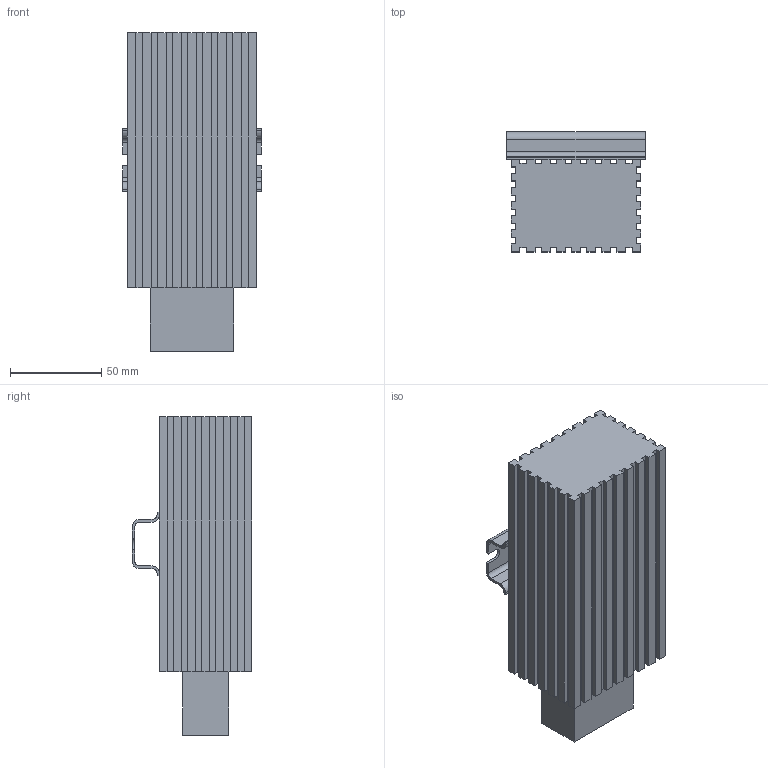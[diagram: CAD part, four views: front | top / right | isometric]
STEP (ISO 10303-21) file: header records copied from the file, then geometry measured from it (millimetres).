
FILE_DESCRIPTION(/* description */ ('Unknown'),/* implementation_level */ '2;1');
FILE_NAME(/* name */ 'SHG14005',/* time_stamp */ '2018-01-16T16:07:45-05:00',/* author */ ('Unknown'),/* organization */ ('Unknown'),/* preprocessor_version */ 'ST-DEVELOPER v16.7',/* originating_system */ 'DEX',/* authorisation */ $);
FILE_SCHEMA (('AUTOMOTIVE_DESIGN {1 0 10303 214 3 1 1}'));
Length unit declared in the file: millimetre
Products named in the file (3): SHG14005; SHG14005_RAIL
Assembly tree (2 placements, depth 2):
  SHG14005
    SHG14005_RAIL
    SHG14005
Bounding box: 76.2 x 65.79 x 175.01 mm (x, y, z)
Volume: 519258.1 mm3; surface area: 72970.8 mm2
Topology: 2 solids, 2 shells, 161 faces, 468 edges, 312 vertices
Faces by surface type: plane 147, cylinder 14
Entity records: 5297 total; most frequent: CARTESIAN_POINT 944, ORIENTED_EDGE 936, DIRECTION 824, EDGE_CURVE 468, LINE 440, VECTOR 440, VERTEX_POINT 312, AXIS2_PLACEMENT_3D 192
